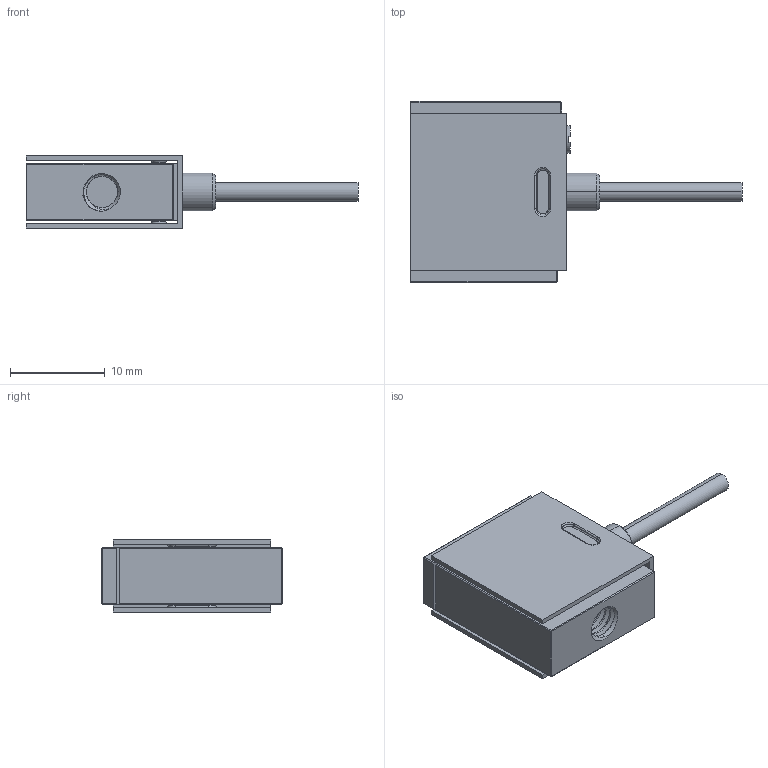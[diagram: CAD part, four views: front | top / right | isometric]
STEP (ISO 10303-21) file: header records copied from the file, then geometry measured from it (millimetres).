
FILE_DESCRIPTION (( 'STEP AP203' ), '1' );
FILE_NAME ('LCS07(50-500N).STEP', '2024-07-16T04:47:35', ( '' ), ( '' ), 'SwSTEP 2.0', 'SolidWorks 2019', '' );
FILE_SCHEMA (( 'CONFIG_CONTROL_DESIGN' ));
Length unit declared in the file: millimetre
Products named in the file (1): LCS07(50-500N)
Bounding box: 35 x 19.1 x 7.6 mm (x, y, z)
Volume: 2064 mm3; surface area: 2903.1 mm2
Topology: 1 solids, 1 shells, 177 faces, 438 edges, 270 vertices
Faces by surface type: plane 83, cylinder 64, torus 16, cone 8, bspline 6
Entity records: 8701 total; most frequent: CARTESIAN_POINT 4557, ORIENTED_EDGE 876, DIRECTION 814, EDGE_CURVE 438, AXIS2_PLACEMENT_3D 280, VERTEX_POINT 270, LINE 254, VECTOR 254
